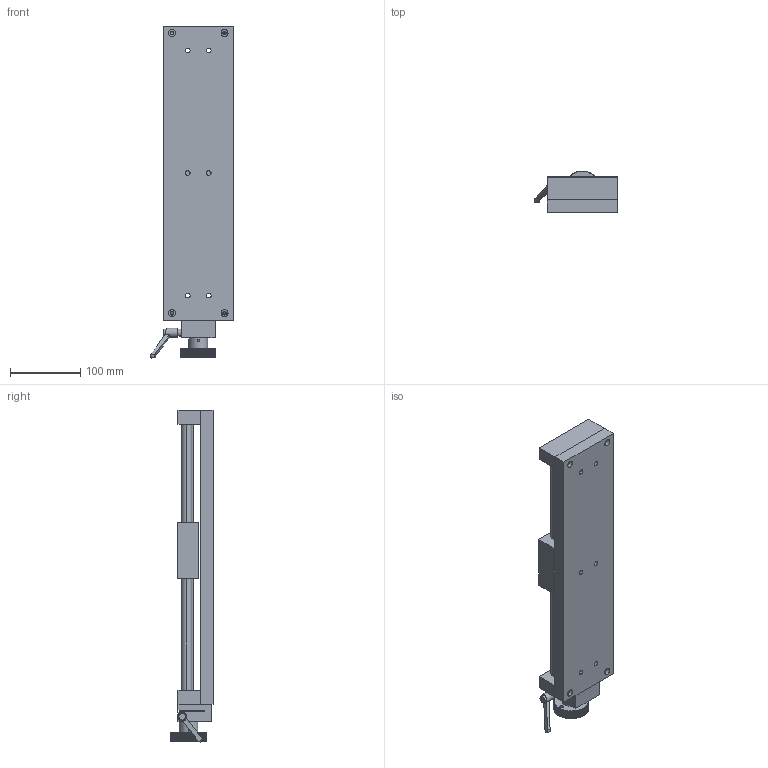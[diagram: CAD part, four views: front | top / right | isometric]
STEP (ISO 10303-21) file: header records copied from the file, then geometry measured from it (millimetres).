
FILE_DESCRIPTION (( 'STEP AP203' ), '1' );
FILE_NAME ('BKST420.STEP', '2024-02-28T03:40:40', ( 'China' ), ( 'Microsoft' ), 'SwSTEP 2.0', 'SolidWorks 2024', '' );
FILE_SCHEMA (( 'CONFIG_CONTROL_DESIGN' ));
Length unit declared in the file: millimetre
Products named in the file (1): BKST420
Bounding box: 117.86 x 60 x 474.09 mm (x, y, z)
Volume: 1332370.5 mm3; surface area: 268039.6 mm2
Topology: 15 solids, 15 shells, 684 faces, 2167 edges, 1425 vertices
Faces by surface type: cylinder 263, plane 251, torus 88, sphere 48, cone 32, bspline 2
Entity records: 27465 total; most frequent: CARTESIAN_POINT 9104, ORIENTED_EDGE 3994, DIRECTION 3713, EDGE_CURVE 1997, AXIS2_PLACEMENT_3D 1425, VERTEX_POINT 1329, LINE 863, VECTOR 863
